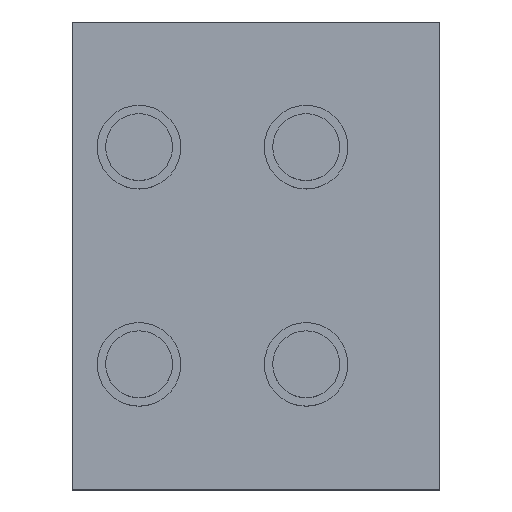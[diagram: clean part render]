
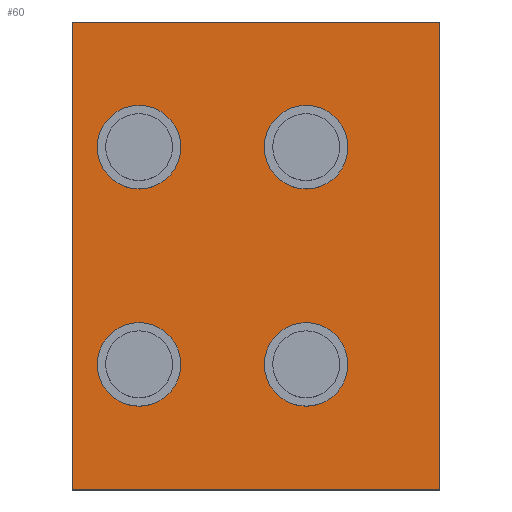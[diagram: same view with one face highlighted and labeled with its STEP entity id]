
A CAD part, top view. The second image highlights one B-rep face of the part: STEP entity #60.
In plain terms, the highlighted planar face has unit normal (0, 0, 1).
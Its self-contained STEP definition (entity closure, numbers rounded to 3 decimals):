
#5 = CARTESIAN_POINT ( 'NONE',  ( -3.5, -3.25, 3. ) ) ;
#32 = DIRECTION ( 'NONE',  ( -1., 0., 0. ) ) ;
#36 = DIRECTION ( 'NONE',  ( 0., 0., 1. ) ) ;
#60 = ADVANCED_FACE ( 'NONE', ( #637, #1005, #179, #547, #917 ), #91, .F. ) ;
#62 = VERTEX_POINT ( 'NONE', #361 ) ;
#64 = AXIS2_PLACEMENT_3D ( 'NONE', #865, #36, #400 ) ;
#91 = PLANE ( 'NONE',  #875 ) ;
#95 = LINE ( 'NONE', #459, #957 ) ;
#110 = VERTEX_POINT ( 'NONE', #739 ) ;
#114 = CIRCLE ( 'NONE', #787, 1. ) ;
#146 = EDGE_LOOP ( 'NONE', ( #1065, #254 ) ) ;
#156 = CARTESIAN_POINT ( 'NONE',  ( 1.5, -3.25, 3. ) ) ;
#157 = CIRCLE ( 'NONE', #1157, 1. ) ;
#179 = FACE_BOUND ( 'NONE', #737, .T. ) ;
#185 = ORIENTED_EDGE ( 'NONE', *, *, #741, .F. ) ;
#226 = VERTEX_POINT ( 'NONE', #386 ) ;
#230 = CARTESIAN_POINT ( 'NONE',  ( 5.5, 7., 3. ) ) ;
#237 = LINE ( 'NONE', #603, #846 ) ;
#250 = ORIENTED_EDGE ( 'NONE', *, *, #700, .F. ) ;
#254 = ORIENTED_EDGE ( 'NONE', *, *, #401, .F. ) ;
#265 = CARTESIAN_POINT ( 'NONE',  ( -3.5, 3.25, 3. ) ) ;
#268 = VECTOR ( 'NONE', #711, 1000. ) ;
#283 = EDGE_LOOP ( 'NONE', ( #444, #954 ) ) ;
#307 = CARTESIAN_POINT ( 'NONE',  ( -5.5, -7., 3. ) ) ;
#321 = VERTEX_POINT ( 'NONE', #408 ) ;
#330 = CARTESIAN_POINT ( 'NONE',  ( 1.5, 3.25, 3. ) ) ;
#331 = CARTESIAN_POINT ( 'NONE',  ( -3.5, -3.25, 3. ) ) ;
#338 = CARTESIAN_POINT ( 'NONE',  ( -5.5, -7., 3. ) ) ;
#341 = VERTEX_POINT ( 'NONE', #230 ) ;
#361 = CARTESIAN_POINT ( 'NONE',  ( 2.5, 3.25, 3. ) ) ;
#369 = DIRECTION ( 'NONE',  ( 0., 0., 1. ) ) ;
#376 = VERTEX_POINT ( 'NONE', #1063 ) ;
#378 = EDGE_CURVE ( 'NONE', #376, #341, #237, .T. ) ;
#386 = CARTESIAN_POINT ( 'NONE',  ( 2.5, -3.25, 3. ) ) ;
#387 = VERTEX_POINT ( 'NONE', #516 ) ;
#396 = CARTESIAN_POINT ( 'NONE',  ( 0.5, -3.25, 3. ) ) ;
#400 = DIRECTION ( 'NONE',  ( -1., 0., 0. ) ) ;
#401 = EDGE_CURVE ( 'NONE', #387, #1196, #1003, .T. ) ;
#403 = CARTESIAN_POINT ( 'NONE',  ( 1.5, -3.25, 3. ) ) ;
#408 = CARTESIAN_POINT ( 'NONE',  ( 0.5, 3.25, 3. ) ) ;
#415 = EDGE_CURVE ( 'NONE', #226, #710, #114, .T. ) ;
#444 = ORIENTED_EDGE ( 'NONE', *, *, #1033, .F. ) ;
#454 = CARTESIAN_POINT ( 'NONE',  ( 0., 0., 3. ) ) ;
#459 = CARTESIAN_POINT ( 'NONE',  ( -5.5, 7., 3. ) ) ;
#474 = CIRCLE ( 'NONE', #1150, 1. ) ;
#481 = CIRCLE ( 'NONE', #1006, 1. ) ;
#487 = CIRCLE ( 'NONE', #1168, 1. ) ;
#489 = CARTESIAN_POINT ( 'NONE',  ( -3.5, 3.25, 3. ) ) ;
#501 = VERTEX_POINT ( 'NONE', #914 ) ;
#516 = CARTESIAN_POINT ( 'NONE',  ( -2.5, -3.25, 3. ) ) ;
#523 = DIRECTION ( 'NONE',  ( 0., 0., 1. ) ) ;
#542 = EDGE_CURVE ( 'NONE', #341, #717, #95, .T. ) ;
#547 = FACE_BOUND ( 'NONE', #896, .T. ) ;
#561 = ORIENTED_EDGE ( 'NONE', *, *, #1007, .T. ) ;
#568 = EDGE_CURVE ( 'NONE', #1196, #387, #481, .T. ) ;
#577 = CIRCLE ( 'NONE', #64, 1. ) ;
#582 = VERTEX_POINT ( 'NONE', #929 ) ;
#602 = AXIS2_PLACEMENT_3D ( 'NONE', #265, #634, #1001 ) ;
#603 = CARTESIAN_POINT ( 'NONE',  ( 5.5, -7., 3. ) ) ;
#634 = DIRECTION ( 'NONE',  ( 0., 0., 1. ) ) ;
#637 = FACE_BOUND ( 'NONE', #283, .T. ) ;
#653 = ORIENTED_EDGE ( 'NONE', *, *, #378, .T. ) ;
#675 = ORIENTED_EDGE ( 'NONE', *, *, #871, .T. ) ;
#679 = DIRECTION ( 'NONE',  ( 0., -1., 0. ) ) ;
#700 = EDGE_CURVE ( 'NONE', #501, #110, #157, .T. ) ;
#703 = DIRECTION ( 'NONE',  ( 0., 0., 1. ) ) ;
#705 = DIRECTION ( 'NONE',  ( 0., 0., 1. ) ) ;
#710 = VERTEX_POINT ( 'NONE', #396 ) ;
#711 = DIRECTION ( 'NONE',  ( 1., 0., 0. ) ) ;
#717 = VERTEX_POINT ( 'NONE', #769 ) ;
#732 = ORIENTED_EDGE ( 'NONE', *, *, #542, .T. ) ;
#737 = EDGE_LOOP ( 'NONE', ( #185, #1060 ) ) ;
#739 = CARTESIAN_POINT ( 'NONE',  ( -2.5, 3.25, 3. ) ) ;
#741 = EDGE_CURVE ( 'NONE', #321, #62, #577, .T. ) ;
#743 = DIRECTION ( 'NONE',  ( -1., 0., 0. ) ) ;
#769 = CARTESIAN_POINT ( 'NONE',  ( -5.5, 7., 3. ) ) ;
#777 = DIRECTION ( 'NONE',  ( 0., 0., 1. ) ) ;
#787 = AXIS2_PLACEMENT_3D ( 'NONE', #156, #523, #894 ) ;
#805 = ORIENTED_EDGE ( 'NONE', *, *, #947, .F. ) ;
#826 = DIRECTION ( 'NONE',  ( 0., 0., -1. ) ) ;
#830 = DIRECTION ( 'NONE',  ( -1., 0., 0. ) ) ;
#846 = VECTOR ( 'NONE', #972, 1000. ) ;
#849 = EDGE_CURVE ( 'NONE', #62, #321, #474, .T. ) ;
#857 = VECTOR ( 'NONE', #679, 1000. ) ;
#860 = DIRECTION ( 'NONE',  ( 0., 0., 1. ) ) ;
#865 = CARTESIAN_POINT ( 'NONE',  ( 1.5, 3.25, 3. ) ) ;
#871 = EDGE_CURVE ( 'NONE', #582, #376, #1170, .T. ) ;
#875 = AXIS2_PLACEMENT_3D ( 'NONE', #454, #826, #1193 ) ;
#894 = DIRECTION ( 'NONE',  ( -1., 0., 0. ) ) ;
#896 = EDGE_LOOP ( 'NONE', ( #250, #805 ) ) ;
#914 = CARTESIAN_POINT ( 'NONE',  ( -4.5, 3.25, 3. ) ) ;
#917 = FACE_OUTER_BOUND ( 'NONE', #1173, .T. ) ;
#929 = CARTESIAN_POINT ( 'NONE',  ( -5.5, -7., 3. ) ) ;
#947 = EDGE_CURVE ( 'NONE', #110, #501, #1127, .T. ) ;
#954 = ORIENTED_EDGE ( 'NONE', *, *, #415, .F. ) ;
#957 = VECTOR ( 'NONE', #830, 1000. ) ;
#972 = DIRECTION ( 'NONE',  ( 0., 1., 0. ) ) ;
#1001 = DIRECTION ( 'NONE',  ( -1., 0., 0. ) ) ;
#1003 = CIRCLE ( 'NONE', #1153, 1. ) ;
#1005 = FACE_BOUND ( 'NONE', #146, .T. ) ;
#1006 = AXIS2_PLACEMENT_3D ( 'NONE', #5, #369, #743 ) ;
#1007 = EDGE_CURVE ( 'NONE', #717, #582, #1138, .T. ) ;
#1033 = EDGE_CURVE ( 'NONE', #710, #226, #487, .T. ) ;
#1060 = ORIENTED_EDGE ( 'NONE', *, *, #849, .F. ) ;
#1063 = CARTESIAN_POINT ( 'NONE',  ( 5.5, -7., 3. ) ) ;
#1065 = ORIENTED_EDGE ( 'NONE', *, *, #568, .F. ) ;
#1070 = DIRECTION ( 'NONE',  ( -1., 0., 0. ) ) ;
#1071 = DIRECTION ( 'NONE',  ( -1., 0., 0. ) ) ;
#1086 = CARTESIAN_POINT ( 'NONE',  ( -4.5, -3.25, 3. ) ) ;
#1127 = CIRCLE ( 'NONE', #602, 1. ) ;
#1138 = LINE ( 'NONE', #307, #857 ) ;
#1144 = DIRECTION ( 'NONE',  ( -1., 0., 0. ) ) ;
#1150 = AXIS2_PLACEMENT_3D ( 'NONE', #330, #703, #1070 ) ;
#1153 = AXIS2_PLACEMENT_3D ( 'NONE', #331, #705, #1071 ) ;
#1157 = AXIS2_PLACEMENT_3D ( 'NONE', #489, #860, #32 ) ;
#1168 = AXIS2_PLACEMENT_3D ( 'NONE', #403, #777, #1144 ) ;
#1170 = LINE ( 'NONE', #338, #268 ) ;
#1173 = EDGE_LOOP ( 'NONE', ( #653, #732, #561, #675 ) ) ;
#1193 = DIRECTION ( 'NONE',  ( -1., 0., 0. ) ) ;
#1196 = VERTEX_POINT ( 'NONE', #1086 ) ;
